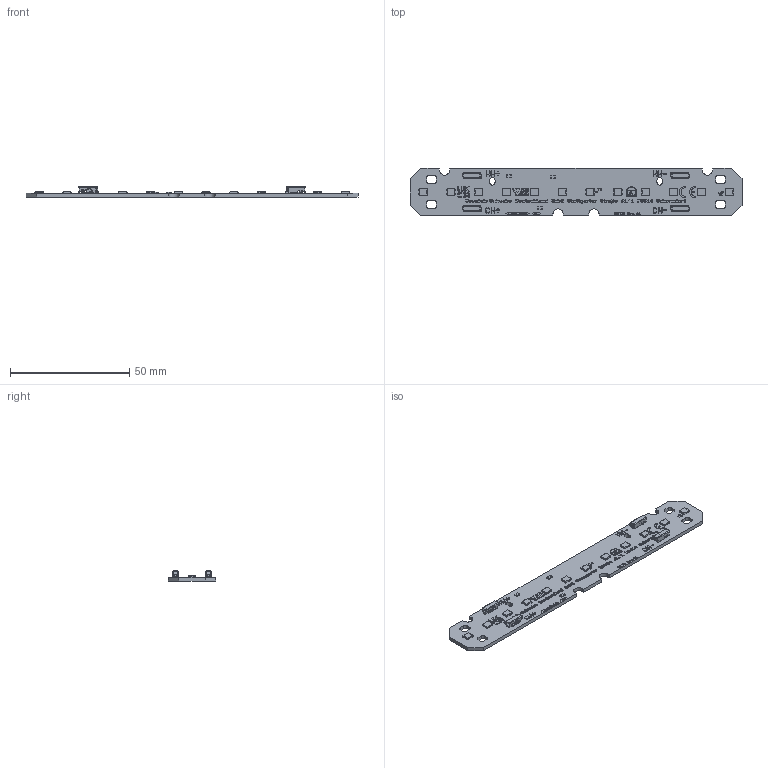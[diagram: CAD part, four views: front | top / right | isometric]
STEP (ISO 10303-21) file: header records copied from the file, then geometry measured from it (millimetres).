
FILE_DESCRIPTION(('Creo Elements/Direct Modeling STEP Export'),'2;1');
FILE_NAME('3D-Model_14072025 139mm TW.stp','2025-07-28T13:54:29',(''),(''),'PTC Creo Elements/Direct Modeling STEP processor for AP214 (Solid Model)','PTC Creo Elements/Direct Modeling 19.0E 27-Jun-2016 (C) Parametric Technology GmbH','');
FILE_SCHEMA(('AUTOMOTIVE_DESIGN { 1 0 10303 214 1 1 1 1 }'));
Length unit declared in the file: millimetre
Products named in the file (157): p1.1; p1; Print; Print.5; Print.7; Print.20; Print.52; Print.53; Print.12; Print.51; Print.11; Print.45; Print.41; Print.49; Print.50; Print.92; Print.97; Print.82; Print.88; Print.66; Print.85; Print.80; Print.83; Print.84; Print.79; Print.69; Print.73; Print.36; Print.16; Print.14; Print.24; Print.33; Print.34; Print.28; Print.19; Print.2; Print.13; Print.17; Print.10; Print.4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
Assembly tree (156 placements, depth 4):
  p1.1
  p1
  Print-Address
    Print.96
    Print.121
    Print.105
    Print.109
    Print.72
    Print.93
    Print.111
    Print.89
    Print.86
    Print.98
    Print.101
    Print.116
    Print.108
    Print.77
    Print.68
    Print.74
    Print.64
    Print.78
    Print.87
    Print.81
    Print.63
    Print.70
    Print.67
    Print.110
    Print.103
    Print.115
    Print.113
    Print.118
    Print.117
    Print.71
    Print.107
    Print.65
    Print.90
    Print.114
    Print.119
    Print.120
    Print.95
    Print.75
    Print.104
    Print.100
    Print.99
    Print.55
    Print.58
    Print.57
    Print.56
    Print.106
    Print.94
    Print.76
    Print.112
    Print.102
    Print.91
    Print.62
    Print.54
    Print.60
    Print.59
    Print.61
    Print.38
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Bounding box: 139 x 20 x 4.3 mm (x, y, z)
Volume: 4284.5 mm3; surface area: 7144.9 mm2
Topology: 130 solids, 178 shells, 4925 faces, 13839 edges, 9202 vertices
Faces by surface type: plane 3646, cylinder 1279
Entity records: 161010 total; most frequent: CARTESIAN_POINT 22985, ORIENTED_EDGE 21354, DIRECTION 21343, EDGE_CURVE 10967, VECTOR 8803, LINE 8803, VERTEX_POINT 7338, AXIS2_PLACEMENT_3D 6270
